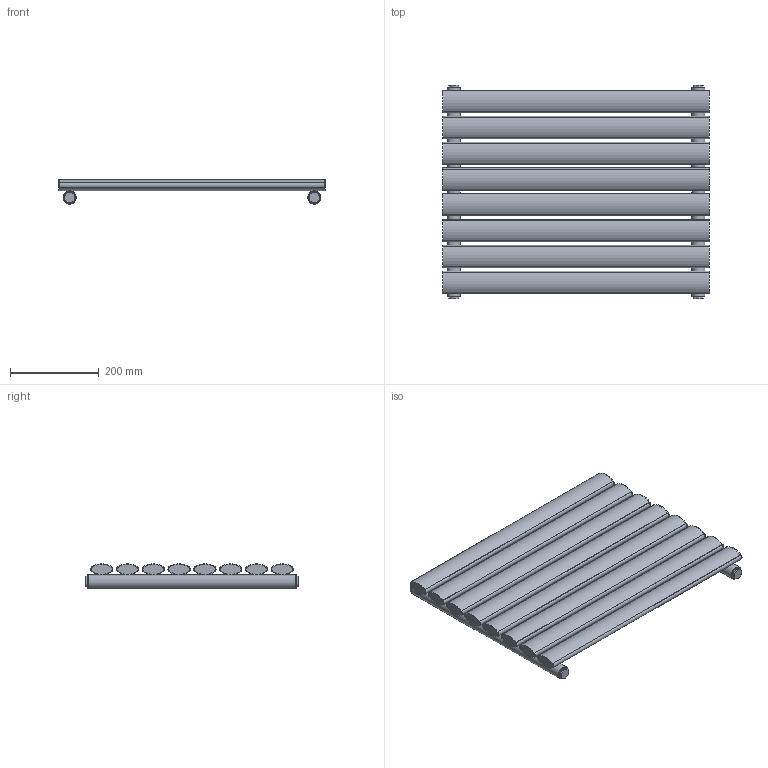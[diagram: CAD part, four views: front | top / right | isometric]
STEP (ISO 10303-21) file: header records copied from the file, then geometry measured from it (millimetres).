
FILE_DESCRIPTION(/* description */ (''),/* implementation_level */ '2;1');
FILE_NAME(/* name */ 'C:\Grzejniki\13DLUXRAD\pokojowe\FORTUNA\FORTUNA POJEDYNCZA 600x468.iam.stp',/* time_stamp */ '2016-06-28T17:32:26+02:00',/* author */ ('m.szydziak'),/* organization */ (''),/* preprocessor_version */ 'ST-DEVELOPER v16.5',/* originating_system */ 'Autodesk Inventor 2017',/* authorisation */ '');
FILE_SCHEMA (('AUTOMOTIVE_DESIGN { 1 0 10303 214 3 1 1 }'));
Length unit declared in the file: millimetre
Products named in the file (5): FORTUNA POJEDYNCZA 600x468; %%c30x1,5x468; 50x25x1,2x600; zaślepka fi30 G0,5inch; korek
Assembly tree (18 placements, depth 2):
  FORTUNA POJEDYNCZA 600x468
    %%c30x1,5x468  x2
    50x25x1,2x600  x8
    zaślepka fi30 G0,5inch  x4
    korek  x4
Bounding box: 600 x 480 x 54.86 mm (x, y, z)
Volume: 825286 mm3; surface area: 1323133 mm2
Topology: 18 solids, 18 shells, 196 faces, 468 edges, 324 vertices
Faces by surface type: plane 100, cylinder 96
Full cylindrical faces by diameter (mm): 5.8 x16, 18.631 x4, 24 x4, 27 x6, 30 x2
Entity records: 1391 total; most frequent: CARTESIAN_POINT 326, DIRECTION 226, ORIENTED_EDGE 150, AXIS2_PLACEMENT_3D 97, EDGE_CURVE 75, VERTEX_POINT 55, EDGE_LOOP 52, FACE_OUTER_BOUND 37
